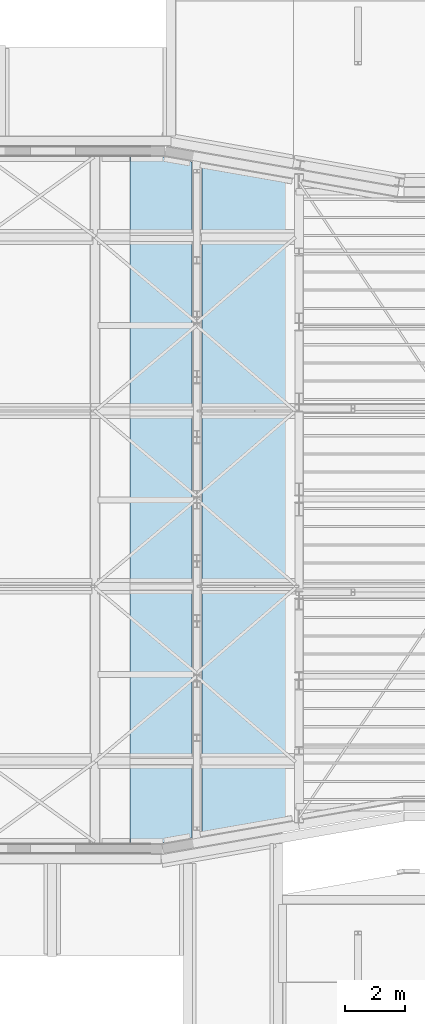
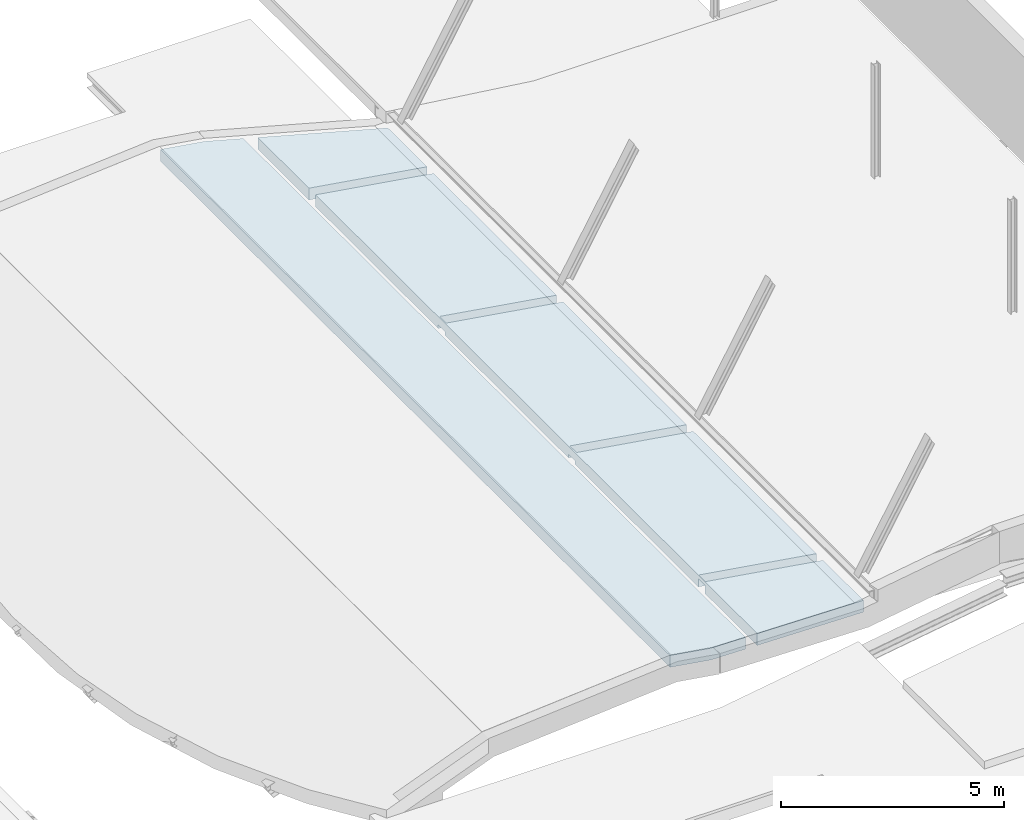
# One storey, part 40 of 50: 2 slabs, 8 openings.
"""IFC2X3 building model written with IfcOpenShell, lengths in millimetres."""

from ifc_helpers import new_model, entity, si_unit, converted_unit, derived_unit, direction, frame, origin, place, context, subcontext, project, spatial, polyline, outline, extrude, faceted_brep, material, layer, layer_set, layer_usage, type_object, element, save


model = new_model("IFC2X3")

# Units and contexts
model_context = context("Model", 3, precision=0.01, world=origin(), true_north=direction((6.12303176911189e-17, 1.0)))
body_context = subcontext(model_context, "Body", "Model", "MODEL_VIEW")
ifc_project = project(units=[si_unit("LENGTHUNIT", "METRE", prefix="MILLI"), si_unit("AREAUNIT", "SQUARE_METRE", prefix="MILLI"), si_unit("VOLUMEUNIT", "CUBIC_METRE"), converted_unit("PLANEANGLEUNIT", "DEGREE", entity("IfcRatioMeasure", 0.0174532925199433), si_unit("PLANEANGLEUNIT", "RADIAN"), dimensions=[0, 0, 0, 0, 0, 0, 0]), si_unit("MASSUNIT", "GRAM", prefix="KILO"), derived_unit("MASSDENSITYUNIT", [(si_unit("MASSUNIT", "GRAM", prefix="KILO"), 1), (si_unit("LENGTHUNIT", "METRE"), -3)]), derived_unit("MOMENTOFINERTIAUNIT", [(si_unit("LENGTHUNIT", "METRE"), 4)]), si_unit("TIMEUNIT", "SECOND"), si_unit("FREQUENCYUNIT", "HERTZ"), si_unit("THERMODYNAMICTEMPERATUREUNIT", "DEGREE_CELSIUS"), derived_unit("THERMALTRANSMITTANCEUNIT", [(si_unit("MASSUNIT", "GRAM", prefix="KILO"), 1), (si_unit("THERMODYNAMICTEMPERATUREUNIT", "KELVIN"), -1), (si_unit("TIMEUNIT", "SECOND"), -3)]), derived_unit("VOLUMETRICFLOWRATEUNIT", [(si_unit("LENGTHUNIT", "METRE"), 3), (si_unit("TIMEUNIT", "SECOND"), -1)]), si_unit("ELECTRICCURRENTUNIT", "AMPERE"), si_unit("ELECTRICVOLTAGEUNIT", "VOLT"), si_unit("POWERUNIT", "WATT"), si_unit("FORCEUNIT", "NEWTON", prefix="KILO"), si_unit("ILLUMINANCEUNIT", "LUX"), si_unit("LUMINOUSFLUXUNIT", "LUMEN"), si_unit("LUMINOUSINTENSITYUNIT", "CANDELA"), derived_unit("USERDEFINED", [(si_unit("MASSUNIT", "GRAM", prefix="KILO"), -1), (si_unit("LENGTHUNIT", "METRE"), -2), (si_unit("TIMEUNIT", "SECOND"), 3), (si_unit("LUMINOUSFLUXUNIT", "LUMEN"), 1)]), derived_unit("LINEARVELOCITYUNIT", [(si_unit("LENGTHUNIT", "METRE"), 1), (si_unit("TIMEUNIT", "SECOND"), -1)]), si_unit("PRESSUREUNIT", "PASCAL"), derived_unit("USERDEFINED", [(si_unit("LENGTHUNIT", "METRE"), -2), (si_unit("MASSUNIT", "GRAM", prefix="KILO"), 1), (si_unit("TIMEUNIT", "SECOND"), -2)]), derived_unit("LINEARFORCEUNIT", [(si_unit("MASSUNIT", "GRAM", prefix="KILO"), 1), (si_unit("LENGTHUNIT", "METRE"), 1), (si_unit("TIMEUNIT", "SECOND"), -2), (si_unit("LENGTHUNIT", "METRE"), -1)]), derived_unit("PLANARFORCEUNIT", [(si_unit("MASSUNIT", "GRAM", prefix="KILO"), 1), (si_unit("LENGTHUNIT", "METRE"), 1), (si_unit("TIMEUNIT", "SECOND"), -2), (si_unit("LENGTHUNIT", "METRE"), -2)])], contexts=[model_context])

# Site, building, storey
site_placement = place(None, origin())
site = spatial("IfcSite", under=ifc_project, at=site_placement, Name="Theater aan de Parade", CompositionType="ELEMENT")
building_placement = place(site_placement, origin())
building = spatial("IfcBuilding", under=site, at=building_placement, Name="Theater aan de Parade", CompositionType="ELEMENT")
storey_placement = place(building_placement, frame((0.0, 0.0, 15820.0)))
storey = spatial("IfcBuildingStorey", under=building, at=storey_placement, Name="04 vierde verdieping", CompositionType="ELEMENT", Elevation=15820.0)

# Slab, openings
ifc_material = material(Name="00_PBT_MAT_systeemvloer")
ifc_layer = layer(ifc_material, 320.0)
ifc_layer_set = layer_set([ifc_layer], Name="Floor:28_PBT_FL_kanaalplaat_d=320")
ifc_layer_usage = layer_usage(ifc_layer_set, "AXIS3", "POSITIVE", 0.0)
slab_type_1 = type_object("IfcSlabType", Name="Floor:28_PBT_FL_kanaalplaat_d=320", PredefinedType="FLOOR")
slab_1_placement = place(storey_placement, frame((50514.5655519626, 20980.0, 831.176136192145)))
slab_1 = element("IfcSlab", 1, at=slab_1_placement, inside=storey, type_object=slab_type_1, material=ifc_layer_usage, Name="Floor:28_PBT_FL_kanaalplaat_d=320", ObjectType="Floor:28_PBT_FL_kanaalplaat_d=320", PredefinedType="FLOOR", context=body_context, shape_type="SweptSolid", body=[
    extrude(outline(polyline([(-2726.94802874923, -11997.2401487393), (374.612099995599, -11461.1495677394), (374.612099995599, 9896.14956773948), (-2726.94802874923, 10432.2401487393), (-2726.94802874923, -11997.2401487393)])), frame((5088.80919660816, 12230.0, 382.591108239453), z_axis=(0.156434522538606, 0.0, 0.987688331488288), x_axis=(0.987688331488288, 0.0, -0.156434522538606)), (0.156434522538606, 0.0, -0.987688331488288), 323.988843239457),
])
placement_1 = place(slab_1_placement, frame((2359.92518329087, 2473.93663264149, -14.8375059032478)))
element("IfcOpeningElement", 2, at=placement_1, cuts=slab_1, ObjectType="Opening", context=body_context, shape_type="Brep", body=[
    faceted_brep([(3211.44389104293, 105.0, 320.998710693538), (3211.44389104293, 405.0, 320.998710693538), (50.8412011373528, 105.0, 821.588998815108), (50.8412011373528, 405.0, 821.588998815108), (3160.91555883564, 0.0, 1.97537668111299), (3160.75912437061, 0.0, 0.987688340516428), (3160.75912437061, 105.0, 0.987688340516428), (3160.75912437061, 405.0, 0.987688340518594), (3160.60268990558, 105.0, 0.0), (3160.60268990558, 405.0, 0.0), (3160.91555883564, 510.0, 1.97537668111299), (3160.75912437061, 510.0, 0.987688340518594), (3160.91555883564, 405.0, 1.97537668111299), (3160.91555883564, 105.0, 1.97537668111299), (0.156434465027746, 105.0, 501.577976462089), (0.156434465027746, 0.0, 501.577976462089), (0.312868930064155, 0.0, 502.565664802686), (0.0, 105.0, 500.590288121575), (0.156434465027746, 405.0, 501.577976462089), (0.0, 405.0, 500.590288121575), (0.156434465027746, 510.0, 501.577976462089), (0.312868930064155, 510.0, 502.565664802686), (0.312868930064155, 405.0, 502.565664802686), (0.312868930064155, 105.0, 502.565664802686), (2666.91495407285, 405.0, 79.2049208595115), (2667.0713885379, 405.0, 80.1926092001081), (148.309685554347, 405.0, 478.11280670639), (148.466120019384, 405.0, 479.100495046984), (2765.84022259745, 105.0, 64.5491626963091), (2765.68378813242, 105.0, 63.5614743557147), (98.9252685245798, 105.0, 485.93452995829), (99.0817029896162, 105.0, 486.922218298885), (148.466120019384, 510.0, 479.100495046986), (148.309685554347, 510.0, 478.11280670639), (99.0817029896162, 0.0, 486.922218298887), (98.9252685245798, 0.0, 485.93452995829), (2667.0713885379, 510.0, 80.1926092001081), (2666.91495407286, 510.0, 79.2049208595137), (2765.84022259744, 0.0, 64.5491626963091), (2765.68378813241, 0.0, 63.5614743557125)], [[[0, 1, 2]], [[3, 2, 1]], [[4, 5, 6]], [[7, 6, 8]], [[8, 9, 7]], [[10, 7, 11]], [[7, 12, 6]], [[1, 0, 13]], [[6, 12, 13]], [[12, 7, 10]], [[13, 12, 1]], [[13, 4, 6]], [[14, 15, 16]], [[17, 14, 18]], [[18, 19, 17]], [[20, 18, 21]], [[14, 22, 18]], [[23, 2, 3]], [[23, 22, 14]], [[21, 18, 22]], [[3, 22, 23]], [[14, 16, 23]], [[9, 24, 7]], [[24, 9, 19]], [[1, 12, 25]], [[1, 25, 3]], [[24, 26, 25]], [[26, 19, 18]], [[19, 26, 24]], [[27, 22, 3]], [[27, 3, 25]], [[26, 27, 25]], [[0, 28, 13]], [[28, 0, 2]], [[8, 6, 29]], [[8, 29, 17]], [[28, 30, 29]], [[31, 2, 23]], [[2, 31, 28]], [[30, 14, 17]], [[30, 17, 29]], [[31, 30, 28]], [[9, 8, 19]], [[17, 19, 8]], [[22, 27, 32]], [[32, 21, 22]], [[20, 33, 26]], [[26, 18, 20]], [[32, 27, 33]], [[26, 33, 27]], [[21, 32, 33]], [[33, 20, 21]], [[34, 31, 16]], [[23, 16, 31]], [[15, 14, 35]], [[30, 35, 14]], [[34, 16, 15]], [[15, 35, 34]], [[31, 34, 35]], [[35, 30, 31]], [[25, 12, 36]], [[10, 36, 12]], [[37, 11, 24]], [[7, 24, 11]], [[36, 10, 11]], [[11, 37, 36]], [[25, 36, 37]], [[37, 24, 25]], [[38, 4, 13]], [[13, 28, 38]], [[29, 6, 5]], [[5, 39, 29]], [[38, 28, 29]], [[29, 39, 38]], [[4, 38, 39]], [[39, 5, 4]]]),
])
placement_2 = place(slab_1_placement, frame((2379.67895010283, 8302.98799142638, -14.8375059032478)))
element("IfcOpeningElement", 3, at=placement_2, cuts=slab_1, ObjectType="Opening", context=body_context, shape_type="Brep", body=[
    faceted_brep([(3191.69012423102, 105.0, 320.998710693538), (3191.69012423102, 405.0, 320.998710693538), (50.8412011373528, 105.0, 818.460309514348), (50.8412011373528, 405.0, 818.460309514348), (3141.16179202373, 0.0, 1.97537668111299), (3141.00535755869, 0.0, 0.987688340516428), (3141.00535755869, 105.0, 0.987688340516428), (3141.00535755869, 405.0, 0.987688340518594), (3140.84892309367, 105.0, 0.0), (3140.84892309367, 405.0, 0.0), (3141.16179202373, 510.0, 1.97537668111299), (3141.00535755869, 510.0, 0.987688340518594), (3141.16179202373, 405.0, 1.97537668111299), (3141.16179202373, 105.0, 1.97537668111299), (0.156434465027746, 105.0, 498.449287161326), (0.156434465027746, 0.0, 498.449287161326), (0.312868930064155, 0.0, 499.436975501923), (0.0, 105.0, 497.461598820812), (0.156434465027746, 405.0, 498.449287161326), (0.0, 405.0, 497.461598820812), (0.156434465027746, 510.0, 498.449287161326), (0.312868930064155, 510.0, 499.436975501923), (0.312868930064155, 405.0, 499.436975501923), (0.312868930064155, 105.0, 499.436975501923), (2647.16118726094, 405.0, 79.2049208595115), (2647.31762172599, 405.0, 80.1926092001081), (148.309685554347, 405.0, 474.984117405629), (148.466120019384, 405.0, 475.971805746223), (2746.08645578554, 105.0, 64.5491626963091), (2745.9300213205, 105.0, 63.5614743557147), (98.9252685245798, 105.0, 482.80584065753), (99.0817029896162, 105.0, 483.793528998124), (148.466120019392, 510.0, 475.971805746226), (148.309685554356, 510.0, 474.984117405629), (99.0817029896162, 0.0, 483.793528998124), (98.9252685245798, 0.0, 482.805840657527), (2647.31762172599, 510.0, 80.1926092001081), (2647.16118726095, 510.0, 79.2049208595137), (2746.08645578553, 0.0, 64.5491626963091), (2745.93002132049, 0.0, 63.5614743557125)], [[[0, 1, 2]], [[3, 2, 1]], [[4, 5, 6]], [[7, 6, 8]], [[8, 9, 7]], [[10, 7, 11]], [[7, 12, 6]], [[1, 0, 13]], [[6, 12, 13]], [[12, 7, 10]], [[13, 12, 1]], [[13, 4, 6]], [[14, 15, 16]], [[17, 14, 18]], [[18, 19, 17]], [[20, 18, 21]], [[14, 22, 18]], [[23, 2, 3]], [[23, 22, 14]], [[21, 18, 22]], [[3, 22, 23]], [[14, 16, 23]], [[9, 24, 7]], [[24, 9, 19]], [[1, 12, 25]], [[1, 25, 3]], [[24, 26, 25]], [[26, 19, 18]], [[19, 26, 24]], [[27, 22, 3]], [[27, 3, 25]], [[26, 27, 25]], [[0, 28, 13]], [[28, 0, 2]], [[8, 6, 29]], [[8, 29, 17]], [[28, 30, 29]], [[31, 2, 23]], [[2, 31, 28]], [[30, 14, 17]], [[30, 17, 29]], [[31, 30, 28]], [[9, 8, 19]], [[17, 19, 8]], [[22, 27, 32]], [[32, 21, 22]], [[20, 33, 26]], [[26, 18, 20]], [[32, 27, 33]], [[26, 33, 27]], [[21, 32, 33]], [[33, 20, 21]], [[34, 31, 16]], [[23, 16, 31]], [[15, 14, 35]], [[30, 35, 14]], [[34, 16, 15]], [[15, 35, 34]], [[31, 34, 35]], [[35, 30, 31]], [[25, 12, 36]], [[10, 36, 12]], [[37, 11, 24]], [[7, 24, 11]], [[36, 10, 11]], [[11, 37, 36]], [[25, 36, 37]], [[37, 24, 25]], [[38, 4, 13]], [[13, 28, 38]], [[29, 6, 5]], [[5, 39, 29]], [[38, 28, 29]], [[29, 39, 38]], [[4, 38, 39]], [[39, 5, 4]]]),
])
placement_3 = place(slab_1_placement, frame((2379.67895010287, 14154.5120085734, -14.8375059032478)))
element("IfcOpeningElement", 4, at=placement_3, cuts=slab_1, ObjectType="Opening", context=body_context, shape_type="Brep", body=[
    faceted_brep([(3191.69012423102, 105.0, 320.998710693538), (3191.69012423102, 405.0, 320.998710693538), (50.8412011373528, 105.0, 818.460309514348), (50.8412011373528, 405.0, 818.460309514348), (3141.16179202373, 0.0, 1.97537668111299), (3141.00535755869, 0.0, 0.987688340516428), (3141.00535755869, 105.0, 0.987688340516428), (3141.00535755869, 405.0, 0.987688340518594), (3140.84892309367, 105.0, 0.0), (3140.84892309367, 405.0, 0.0), (3141.16179202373, 510.0, 1.97537668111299), (3141.00535755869, 510.0, 0.987688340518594), (3141.16179202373, 405.0, 1.97537668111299), (3141.16179202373, 105.0, 1.97537668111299), (0.156434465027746, 105.0, 498.449287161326), (0.156434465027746, 0.0, 498.449287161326), (0.312868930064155, 0.0, 499.436975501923), (0.0, 105.0, 497.461598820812), (0.156434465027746, 405.0, 498.449287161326), (0.0, 405.0, 497.461598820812), (0.156434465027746, 510.0, 498.449287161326), (0.312868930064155, 510.0, 499.436975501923), (0.312868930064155, 405.0, 499.436975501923), (0.312868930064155, 105.0, 499.436975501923), (2647.16118726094, 405.0, 79.2049208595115), (2647.31762172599, 405.0, 80.1926092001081), (148.309685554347, 405.0, 474.984117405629), (148.466120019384, 405.0, 475.971805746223), (2746.08645578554, 105.0, 64.5491626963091), (2745.9300213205, 105.0, 63.5614743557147), (98.9252685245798, 105.0, 482.80584065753), (99.0817029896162, 105.0, 483.793528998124), (148.466120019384, 510.0, 475.971805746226), (148.309685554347, 510.0, 474.984117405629), (99.0817029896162, 0.0, 483.793528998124), (98.9252685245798, 0.0, 482.805840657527), (2647.31762172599, 510.0, 80.1926092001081), (2647.16118726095, 510.0, 79.2049208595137), (2746.08645578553, 0.0, 64.5491626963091), (2745.93002132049, 0.0, 63.5614743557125)], [[[0, 1, 2]], [[3, 2, 1]], [[4, 5, 6]], [[7, 6, 8]], [[8, 9, 7]], [[10, 7, 11]], [[7, 12, 6]], [[1, 0, 13]], [[6, 12, 13]], [[12, 7, 10]], [[13, 12, 1]], [[13, 4, 6]], [[14, 15, 16]], [[17, 14, 18]], [[18, 19, 17]], [[20, 18, 21]], [[14, 22, 18]], [[23, 2, 3]], [[23, 22, 14]], [[21, 18, 22]], [[3, 22, 23]], [[14, 16, 23]], [[9, 24, 7]], [[24, 9, 19]], [[1, 12, 25]], [[1, 25, 3]], [[24, 26, 25]], [[26, 19, 18]], [[19, 26, 24]], [[27, 22, 3]], [[27, 3, 25]], [[26, 27, 25]], [[0, 28, 13]], [[28, 0, 2]], [[8, 6, 29]], [[8, 29, 17]], [[28, 30, 29]], [[31, 2, 23]], [[2, 31, 28]], [[30, 14, 17]], [[30, 17, 29]], [[31, 30, 28]], [[9, 8, 19]], [[17, 19, 8]], [[22, 27, 32]], [[32, 21, 22]], [[20, 33, 26]], [[26, 18, 20]], [[32, 27, 33]], [[26, 33, 27]], [[21, 32, 33]], [[33, 20, 21]], [[34, 31, 16]], [[23, 16, 31]], [[15, 14, 35]], [[30, 35, 14]], [[34, 16, 15]], [[15, 35, 34]], [[31, 34, 35]], [[35, 30, 31]], [[25, 12, 36]], [[10, 36, 12]], [[37, 11, 24]], [[7, 24, 11]], [[36, 10, 11]], [[11, 37, 36]], [[25, 36, 37]], [[37, 24, 25]], [[38, 4, 13]], [[13, 28, 38]], [[29, 6, 5]], [[5, 39, 29]], [[38, 28, 29]], [[29, 39, 38]], [[4, 38, 39]], [[39, 5, 4]]]),
])
placement_4 = place(slab_1_placement, frame((2344.59323329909, 19963.5633673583, -14.8375059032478)))
element("IfcOpeningElement", 5, at=placement_4, cuts=slab_1, ObjectType="Opening", context=body_context, shape_type="Brep", body=[
    faceted_brep([(3226.77584103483, 105.0, 320.998710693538), (3226.77584103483, 405.0, 320.998710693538), (50.8412011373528, 405.0, 824.017341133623), (50.8412011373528, 105.0, 824.017341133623), (3176.24750882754, 0.0, 1.97537668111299), (3176.09107436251, 0.0, 0.987688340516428), (3176.09107436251, 105.0, 0.987688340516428), (3176.09107436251, 405.0, 0.987688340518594), (3175.93463989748, 105.0, 0.0), (3175.93463989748, 405.0, 0.0), (3176.24750882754, 510.0, 1.97537668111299), (3176.09107436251, 510.0, 0.987688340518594), (3176.24750882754, 405.0, 1.97537668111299), (3176.24750882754, 105.0, 1.97537668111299), (0.156434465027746, 105.0, 504.006318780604), (0.156434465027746, 0.0, 504.006318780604), (0.312868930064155, 0.0, 504.994007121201), (0.0, 105.0, 503.01863044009), (0.156434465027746, 405.0, 504.006318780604), (0.0, 405.0, 503.01863044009), (0.156434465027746, 510.0, 504.006318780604), (0.312868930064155, 510.0, 504.994007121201), (0.312868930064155, 405.0, 504.994007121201), (0.312868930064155, 105.0, 504.994007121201), (2682.24690406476, 405.0, 79.2049208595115), (2682.4033385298, 405.0, 80.1926092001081), (148.309685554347, 405.0, 480.541149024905), (148.466120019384, 405.0, 481.528837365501), (2781.17217258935, 105.0, 64.5491626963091), (2781.01573812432, 105.0, 63.5614743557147), (98.9252685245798, 105.0, 488.362872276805), (99.0817029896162, 105.0, 489.3505606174), (148.466120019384, 510.0, 481.528837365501), (148.309685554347, 510.0, 480.541149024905), (99.0817029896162, 0.0, 489.350560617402), (98.9252685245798, 0.0, 488.362872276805), (2682.4033385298, 510.0, 80.1926092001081), (2682.24690406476, 510.0, 79.2049208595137), (2781.17217258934, 0.0, 64.5491626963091), (2781.01573812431, 0.0, 63.5614743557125)], [[[0, 1, 2]], [[2, 3, 0]], [[4, 5, 6]], [[7, 6, 8]], [[8, 9, 7]], [[10, 7, 11]], [[7, 12, 6]], [[1, 0, 13]], [[6, 12, 13]], [[12, 7, 10]], [[13, 12, 1]], [[13, 4, 6]], [[14, 15, 16]], [[17, 14, 18]], [[18, 19, 17]], [[20, 18, 21]], [[14, 22, 18]], [[23, 3, 2]], [[23, 22, 14]], [[21, 18, 22]], [[2, 22, 23]], [[14, 16, 23]], [[9, 24, 7]], [[24, 9, 19]], [[1, 12, 25]], [[1, 25, 2]], [[24, 26, 25]], [[26, 19, 18]], [[19, 26, 24]], [[27, 22, 2]], [[27, 2, 25]], [[26, 27, 25]], [[0, 28, 13]], [[28, 0, 3]], [[8, 6, 29]], [[8, 29, 17]], [[28, 30, 29]], [[31, 3, 23]], [[3, 31, 28]], [[30, 14, 17]], [[30, 17, 29]], [[31, 30, 28]], [[9, 8, 17]], [[17, 19, 9]], [[22, 27, 32]], [[32, 21, 22]], [[20, 33, 26]], [[26, 18, 20]], [[32, 27, 33]], [[26, 33, 27]], [[21, 32, 33]], [[33, 20, 21]], [[34, 31, 16]], [[23, 16, 31]], [[15, 14, 35]], [[30, 35, 14]], [[34, 16, 15]], [[15, 35, 34]], [[31, 34, 35]], [[35, 30, 31]], [[25, 12, 36]], [[10, 36, 12]], [[37, 11, 24]], [[7, 24, 11]], [[36, 10, 11]], [[11, 37, 36]], [[25, 36, 37]], [[37, 24, 25]], [[38, 4, 13]], [[13, 28, 38]], [[29, 6, 39]], [[5, 39, 6]], [[38, 28, 29]], [[29, 39, 38]], [[4, 38, 39]], [[39, 5, 4]]]),
])

slab_type_2 = type_object("IfcSlabType", Name="Floor:28_PBT_FL_kanaalplaat_d=320", PredefinedType="FLOOR", material=ifc_layer_set)
slab_2_placement = place(storey_placement, frame((50514.5655519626, 20980.0, 831.176136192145)))
slab_2 = element("IfcSlab", 6, at=slab_2_placement, inside=storey, type_object=slab_type_2, material=ifc_layer_usage, Name="Floor:28_PBT_FL_kanaalplaat_d=320:2", ObjectType="Floor:28_PBT_FL_kanaalplaat_d=320", PredefinedType="FLOOR", context=body_context, shape_type="SweptSolid", body=[
    extrude(outline(polyline([(-4073.58365308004, -12230.0), (-3071.18617469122, -12056.7401487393), (-3071.18617469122, 10491.7401487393), (-3986.80092721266, 10650.0), (-5152.24189086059, 10650.0), (-5152.24189086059, -12230.0), (-4073.58365308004, -12230.0)])), frame((5088.80919660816, 12230.0, 382.591108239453), z_axis=(0.156434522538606, 0.0, 0.987688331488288), x_axis=(0.987688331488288, 0.0, -0.156434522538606)), (0.156434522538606, 0.0, -0.987688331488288), 323.988843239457),
])
element("IfcOpeningElement", 7, at=placement_1, cuts=slab_2, ObjectType="Opening", context=body_context, shape_type="Brep", body=[
    faceted_brep([(3211.44389104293, 105.0, 320.998710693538), (3211.44389104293, 405.0, 320.998710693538), (50.8412011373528, 105.0, 821.588998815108), (50.8412011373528, 405.0, 821.588998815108), (3160.91555883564, 0.0, 1.97537668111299), (3160.75912437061, 0.0, 0.987688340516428), (3160.75912437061, 105.0, 0.987688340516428), (3160.75912437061, 405.0, 0.987688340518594), (3160.60268990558, 105.0, 0.0), (3160.60268990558, 405.0, 0.0), (3160.91555883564, 510.0, 1.97537668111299), (3160.75912437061, 510.0, 0.987688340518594), (3160.91555883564, 405.0, 1.97537668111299), (3160.91555883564, 105.0, 1.97537668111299), (0.156434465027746, 105.0, 501.577976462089), (0.156434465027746, 0.0, 501.577976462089), (0.312868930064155, 0.0, 502.565664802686), (0.0, 105.0, 500.590288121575), (0.156434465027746, 405.0, 501.577976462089), (0.0, 405.0, 500.590288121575), (0.156434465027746, 510.0, 501.577976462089), (0.312868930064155, 510.0, 502.565664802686), (0.312868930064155, 405.0, 502.565664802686), (0.312868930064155, 105.0, 502.565664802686), (2666.91495407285, 405.0, 79.2049208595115), (2667.0713885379, 405.0, 80.1926092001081), (148.309685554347, 405.0, 478.11280670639), (148.466120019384, 405.0, 479.100495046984), (2765.84022259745, 105.0, 64.5491626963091), (2765.68378813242, 105.0, 63.5614743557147), (98.9252685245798, 105.0, 485.93452995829), (99.0817029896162, 105.0, 486.922218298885), (148.466120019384, 510.0, 479.100495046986), (148.309685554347, 510.0, 478.11280670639), (99.0817029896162, 0.0, 486.922218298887), (98.9252685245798, 0.0, 485.93452995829), (2667.0713885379, 510.0, 80.1926092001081), (2666.91495407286, 510.0, 79.2049208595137), (2765.84022259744, 0.0, 64.5491626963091), (2765.68378813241, 0.0, 63.5614743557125)], [[[0, 1, 2]], [[3, 2, 1]], [[4, 5, 6]], [[7, 6, 8]], [[8, 9, 7]], [[10, 7, 11]], [[7, 12, 6]], [[1, 0, 13]], [[6, 12, 13]], [[12, 7, 10]], [[13, 12, 1]], [[13, 4, 6]], [[14, 15, 16]], [[17, 14, 18]], [[18, 19, 17]], [[20, 18, 21]], [[14, 22, 18]], [[23, 2, 3]], [[23, 22, 14]], [[21, 18, 22]], [[3, 22, 23]], [[14, 16, 23]], [[9, 24, 7]], [[24, 9, 19]], [[1, 12, 25]], [[1, 25, 3]], [[24, 26, 25]], [[26, 19, 18]], [[19, 26, 24]], [[27, 22, 3]], [[27, 3, 25]], [[26, 27, 25]], [[0, 28, 13]], [[28, 0, 2]], [[8, 6, 29]], [[8, 29, 17]], [[28, 30, 29]], [[31, 2, 23]], [[2, 31, 28]], [[30, 14, 17]], [[30, 17, 29]], [[31, 30, 28]], [[9, 8, 19]], [[17, 19, 8]], [[22, 27, 32]], [[32, 21, 22]], [[20, 33, 26]], [[26, 18, 20]], [[32, 27, 33]], [[26, 33, 27]], [[21, 32, 33]], [[33, 20, 21]], [[34, 31, 16]], [[23, 16, 31]], [[15, 14, 35]], [[30, 35, 14]], [[34, 16, 15]], [[15, 35, 34]], [[31, 34, 35]], [[35, 30, 31]], [[25, 12, 36]], [[10, 36, 12]], [[37, 11, 24]], [[7, 24, 11]], [[36, 10, 11]], [[11, 37, 36]], [[25, 36, 37]], [[37, 24, 25]], [[38, 4, 13]], [[13, 28, 38]], [[29, 6, 5]], [[5, 39, 29]], [[38, 28, 29]], [[29, 39, 38]], [[4, 38, 39]], [[39, 5, 4]]]),
])
element("IfcOpeningElement", 8, at=placement_2, cuts=slab_2, ObjectType="Opening", context=body_context, shape_type="Brep", body=[
    faceted_brep([(3191.69012423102, 105.0, 320.998710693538), (3191.69012423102, 405.0, 320.998710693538), (50.8412011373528, 105.0, 818.460309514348), (50.8412011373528, 405.0, 818.460309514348), (3141.16179202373, 0.0, 1.97537668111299), (3141.00535755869, 0.0, 0.987688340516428), (3141.00535755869, 105.0, 0.987688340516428), (3141.00535755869, 405.0, 0.987688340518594), (3140.84892309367, 105.0, 0.0), (3140.84892309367, 405.0, 0.0), (3141.16179202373, 510.0, 1.97537668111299), (3141.00535755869, 510.0, 0.987688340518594), (3141.16179202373, 405.0, 1.97537668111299), (3141.16179202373, 105.0, 1.97537668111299), (0.156434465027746, 105.0, 498.449287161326), (0.156434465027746, 0.0, 498.449287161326), (0.312868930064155, 0.0, 499.436975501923), (0.0, 105.0, 497.461598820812), (0.156434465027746, 405.0, 498.449287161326), (0.0, 405.0, 497.461598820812), (0.156434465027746, 510.0, 498.449287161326), (0.312868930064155, 510.0, 499.436975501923), (0.312868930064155, 405.0, 499.436975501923), (0.312868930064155, 105.0, 499.436975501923), (2647.16118726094, 405.0, 79.2049208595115), (2647.31762172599, 405.0, 80.1926092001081), (148.309685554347, 405.0, 474.984117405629), (148.466120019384, 405.0, 475.971805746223), (2746.08645578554, 105.0, 64.5491626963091), (2745.9300213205, 105.0, 63.5614743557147), (98.9252685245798, 105.0, 482.80584065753), (99.0817029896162, 105.0, 483.793528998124), (148.466120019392, 510.0, 475.971805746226), (148.309685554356, 510.0, 474.984117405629), (99.0817029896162, 0.0, 483.793528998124), (98.9252685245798, 0.0, 482.805840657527), (2647.31762172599, 510.0, 80.1926092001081), (2647.16118726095, 510.0, 79.2049208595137), (2746.08645578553, 0.0, 64.5491626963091), (2745.93002132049, 0.0, 63.5614743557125)], [[[0, 1, 2]], [[3, 2, 1]], [[4, 5, 6]], [[7, 6, 8]], [[8, 9, 7]], [[10, 7, 11]], [[7, 12, 6]], [[1, 0, 13]], [[6, 12, 13]], [[12, 7, 10]], [[13, 12, 1]], [[13, 4, 6]], [[14, 15, 16]], [[17, 14, 18]], [[18, 19, 17]], [[20, 18, 21]], [[14, 22, 18]], [[23, 2, 3]], [[23, 22, 14]], [[21, 18, 22]], [[3, 22, 23]], [[14, 16, 23]], [[9, 24, 7]], [[24, 9, 19]], [[1, 12, 25]], [[1, 25, 3]], [[24, 26, 25]], [[26, 19, 18]], [[19, 26, 24]], [[27, 22, 3]], [[27, 3, 25]], [[26, 27, 25]], [[0, 28, 13]], [[28, 0, 2]], [[8, 6, 29]], [[8, 29, 17]], [[28, 30, 29]], [[31, 2, 23]], [[2, 31, 28]], [[30, 14, 17]], [[30, 17, 29]], [[31, 30, 28]], [[9, 8, 19]], [[17, 19, 8]], [[22, 27, 32]], [[32, 21, 22]], [[20, 33, 26]], [[26, 18, 20]], [[32, 27, 33]], [[26, 33, 27]], [[21, 32, 33]], [[33, 20, 21]], [[34, 31, 16]], [[23, 16, 31]], [[15, 14, 35]], [[30, 35, 14]], [[34, 16, 15]], [[15, 35, 34]], [[31, 34, 35]], [[35, 30, 31]], [[25, 12, 36]], [[10, 36, 12]], [[37, 11, 24]], [[7, 24, 11]], [[36, 10, 11]], [[11, 37, 36]], [[25, 36, 37]], [[37, 24, 25]], [[38, 4, 13]], [[13, 28, 38]], [[29, 6, 5]], [[5, 39, 29]], [[38, 28, 29]], [[29, 39, 38]], [[4, 38, 39]], [[39, 5, 4]]]),
])
element("IfcOpeningElement", 9, at=placement_3, cuts=slab_2, ObjectType="Opening", context=body_context, shape_type="Brep", body=[
    faceted_brep([(3191.69012423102, 105.0, 320.998710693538), (3191.69012423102, 405.0, 320.998710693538), (50.8412011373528, 105.0, 818.460309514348), (50.8412011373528, 405.0, 818.460309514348), (3141.16179202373, 0.0, 1.97537668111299), (3141.00535755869, 0.0, 0.987688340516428), (3141.00535755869, 105.0, 0.987688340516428), (3141.00535755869, 405.0, 0.987688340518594), (3140.84892309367, 105.0, 0.0), (3140.84892309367, 405.0, 0.0), (3141.16179202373, 510.0, 1.97537668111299), (3141.00535755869, 510.0, 0.987688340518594), (3141.16179202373, 405.0, 1.97537668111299), (3141.16179202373, 105.0, 1.97537668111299), (0.156434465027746, 105.0, 498.449287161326), (0.156434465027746, 0.0, 498.449287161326), (0.312868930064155, 0.0, 499.436975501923), (0.0, 105.0, 497.461598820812), (0.156434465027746, 405.0, 498.449287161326), (0.0, 405.0, 497.461598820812), (0.156434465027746, 510.0, 498.449287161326), (0.312868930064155, 510.0, 499.436975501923), (0.312868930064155, 405.0, 499.436975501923), (0.312868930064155, 105.0, 499.436975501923), (2647.16118726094, 405.0, 79.2049208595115), (2647.31762172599, 405.0, 80.1926092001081), (148.309685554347, 405.0, 474.984117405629), (148.466120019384, 405.0, 475.971805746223), (2746.08645578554, 105.0, 64.5491626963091), (2745.9300213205, 105.0, 63.5614743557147), (98.9252685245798, 105.0, 482.80584065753), (99.0817029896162, 105.0, 483.793528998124), (148.466120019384, 510.0, 475.971805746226), (148.309685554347, 510.0, 474.984117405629), (99.0817029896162, 0.0, 483.793528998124), (98.9252685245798, 0.0, 482.805840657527), (2647.31762172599, 510.0, 80.1926092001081), (2647.16118726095, 510.0, 79.2049208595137), (2746.08645578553, 0.0, 64.5491626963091), (2745.93002132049, 0.0, 63.5614743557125)], [[[0, 1, 2]], [[3, 2, 1]], [[4, 5, 6]], [[7, 6, 8]], [[8, 9, 7]], [[10, 7, 11]], [[7, 12, 6]], [[1, 0, 13]], [[6, 12, 13]], [[12, 7, 10]], [[13, 12, 1]], [[13, 4, 6]], [[14, 15, 16]], [[17, 14, 18]], [[18, 19, 17]], [[20, 18, 21]], [[14, 22, 18]], [[23, 2, 3]], [[23, 22, 14]], [[21, 18, 22]], [[3, 22, 23]], [[14, 16, 23]], [[9, 24, 7]], [[24, 9, 19]], [[1, 12, 25]], [[1, 25, 3]], [[24, 26, 25]], [[26, 19, 18]], [[19, 26, 24]], [[27, 22, 3]], [[27, 3, 25]], [[26, 27, 25]], [[0, 28, 13]], [[28, 0, 2]], [[8, 6, 29]], [[8, 29, 17]], [[28, 30, 29]], [[31, 2, 23]], [[2, 31, 28]], [[30, 14, 17]], [[30, 17, 29]], [[31, 30, 28]], [[9, 8, 19]], [[17, 19, 8]], [[22, 27, 32]], [[32, 21, 22]], [[20, 33, 26]], [[26, 18, 20]], [[32, 27, 33]], [[26, 33, 27]], [[21, 32, 33]], [[33, 20, 21]], [[34, 31, 16]], [[23, 16, 31]], [[15, 14, 35]], [[30, 35, 14]], [[34, 16, 15]], [[15, 35, 34]], [[31, 34, 35]], [[35, 30, 31]], [[25, 12, 36]], [[10, 36, 12]], [[37, 11, 24]], [[7, 24, 11]], [[36, 10, 11]], [[11, 37, 36]], [[25, 36, 37]], [[37, 24, 25]], [[38, 4, 13]], [[13, 28, 38]], [[29, 6, 5]], [[5, 39, 29]], [[38, 28, 29]], [[29, 39, 38]], [[4, 38, 39]], [[39, 5, 4]]]),
])
element("IfcOpeningElement", 10, at=placement_4, cuts=slab_2, ObjectType="Opening", context=body_context, shape_type="Brep", body=[
    faceted_brep([(3226.77584103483, 105.0, 320.998710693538), (3226.77584103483, 405.0, 320.998710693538), (50.8412011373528, 405.0, 824.017341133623), (50.8412011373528, 105.0, 824.017341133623), (3176.24750882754, 0.0, 1.97537668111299), (3176.09107436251, 0.0, 0.987688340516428), (3176.09107436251, 105.0, 0.987688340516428), (3176.09107436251, 405.0, 0.987688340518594), (3175.93463989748, 105.0, 0.0), (3175.93463989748, 405.0, 0.0), (3176.24750882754, 510.0, 1.97537668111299), (3176.09107436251, 510.0, 0.987688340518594), (3176.24750882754, 405.0, 1.97537668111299), (3176.24750882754, 105.0, 1.97537668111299), (0.156434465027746, 105.0, 504.006318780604), (0.156434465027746, 0.0, 504.006318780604), (0.312868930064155, 0.0, 504.994007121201), (0.0, 105.0, 503.01863044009), (0.156434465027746, 405.0, 504.006318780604), (0.0, 405.0, 503.01863044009), (0.156434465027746, 510.0, 504.006318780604), (0.312868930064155, 510.0, 504.994007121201), (0.312868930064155, 405.0, 504.994007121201), (0.312868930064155, 105.0, 504.994007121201), (2682.24690406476, 405.0, 79.2049208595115), (2682.4033385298, 405.0, 80.1926092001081), (148.309685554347, 405.0, 480.541149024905), (148.466120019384, 405.0, 481.528837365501), (2781.17217258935, 105.0, 64.5491626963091), (2781.01573812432, 105.0, 63.5614743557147), (98.9252685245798, 105.0, 488.362872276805), (99.0817029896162, 105.0, 489.3505606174), (148.466120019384, 510.0, 481.528837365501), (148.309685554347, 510.0, 480.541149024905), (99.0817029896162, 0.0, 489.350560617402), (98.9252685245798, 0.0, 488.362872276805), (2682.4033385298, 510.0, 80.1926092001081), (2682.24690406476, 510.0, 79.2049208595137), (2781.17217258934, 0.0, 64.5491626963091), (2781.01573812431, 0.0, 63.5614743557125)], [[[0, 1, 2]], [[2, 3, 0]], [[4, 5, 6]], [[7, 6, 8]], [[8, 9, 7]], [[10, 7, 11]], [[7, 12, 6]], [[1, 0, 13]], [[6, 12, 13]], [[12, 7, 10]], [[13, 12, 1]], [[13, 4, 6]], [[14, 15, 16]], [[17, 14, 18]], [[18, 19, 17]], [[20, 18, 21]], [[14, 22, 18]], [[23, 3, 2]], [[23, 22, 14]], [[21, 18, 22]], [[2, 22, 23]], [[14, 16, 23]], [[9, 24, 7]], [[24, 9, 19]], [[1, 12, 25]], [[1, 25, 2]], [[24, 26, 25]], [[26, 19, 18]], [[19, 26, 24]], [[27, 22, 2]], [[27, 2, 25]], [[26, 27, 25]], [[0, 28, 13]], [[28, 0, 3]], [[8, 6, 29]], [[8, 29, 17]], [[28, 30, 29]], [[31, 3, 23]], [[3, 31, 28]], [[30, 14, 17]], [[30, 17, 29]], [[31, 30, 28]], [[9, 8, 17]], [[17, 19, 9]], [[22, 27, 32]], [[32, 21, 22]], [[20, 33, 26]], [[26, 18, 20]], [[32, 27, 33]], [[26, 33, 27]], [[21, 32, 33]], [[33, 20, 21]], [[34, 31, 16]], [[23, 16, 31]], [[15, 14, 35]], [[30, 35, 14]], [[34, 16, 15]], [[15, 35, 34]], [[31, 34, 35]], [[35, 30, 31]], [[25, 12, 36]], [[10, 36, 12]], [[37, 11, 24]], [[7, 24, 11]], [[36, 10, 11]], [[11, 37, 36]], [[25, 36, 37]], [[37, 24, 25]], [[38, 4, 13]], [[13, 28, 38]], [[29, 6, 39]], [[5, 39, 6]], [[38, 28, 29]], [[29, 39, 38]], [[4, 38, 39]], [[39, 5, 4]]]),
])

save(model, "model.ifc")
